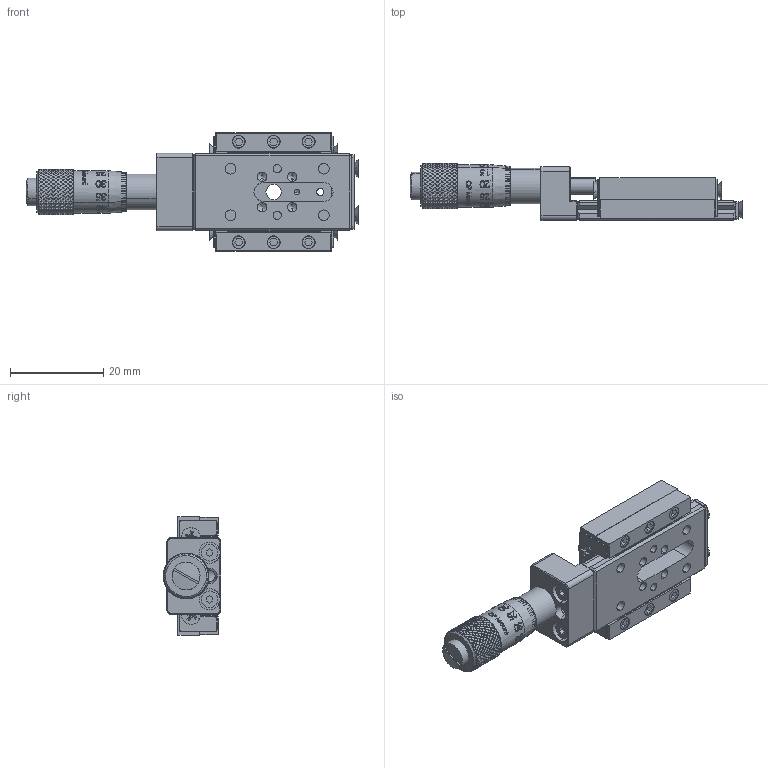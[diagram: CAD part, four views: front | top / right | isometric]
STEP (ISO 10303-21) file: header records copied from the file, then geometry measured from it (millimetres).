
FILE_DESCRIPTION (( 'STEP AP203' ), '1' );
FILE_NAME ('TCB25-03.STEP', '2017-02-17T03:19:12', ( '' ), ( '' ), 'SwSTEP 2.0', 'SolidWorks 2012', '' );
FILE_SCHEMA (( 'CONFIG_CONTROL_DESIGN' ));
Products named in the file (14): M2x0.4P皿頭; MER-08前管; TCB25-03; MER-08後管; M1.6x0.3PX5L; M3x0.5P無沉頭x3L; M2x0.4Px10L; TCB25-鋼軌; TCB25-面板檔片; TCB25-底板檔片; TCB25-培林帶片; TCB25-面板; TCB25-MIC®y; TCB25-底板
Assembly tree (27 placements, depth 2):
  TCB25-03
    TCB25-底板
    TCB25-MIC®y
    TCB25-面板
    TCB25-面板檔片  x2
    TCB25-培林帶片  x2
    TCB25-鋼軌  x2
    TCB25-底板檔片
    M1.6x0.3PX5L  x6
    M2x0.4Px10L  x2
    M3x0.5P無沉頭x3L
    MER-08後管
    MER-08前管
    M2x0.4P皿頭  x6
Bounding box: 71.27 x 12.35 x 25.4 mm (x, y, z)
Volume: 7641.8 mm3; surface area: 10960.8 mm2
Topology: 27 solids, 27 shells, 3164 faces, 8831 edges, 5810 vertices
Faces by surface type: bspline 1563, cylinder 892, plane 565, cone 108, sphere 36
Entity records: 227134 total; most frequent: CARTESIAN_POINT 170767, ORIENTED_EDGE 16280, EDGE_CURVE 8140, DIRECTION 5521, VERTEX_POINT 5390, B_SPLINE_CURVE_WITH_KNOTS 3130, EDGE_LOOP 3062, FACE_OUTER_BOUND 2881
